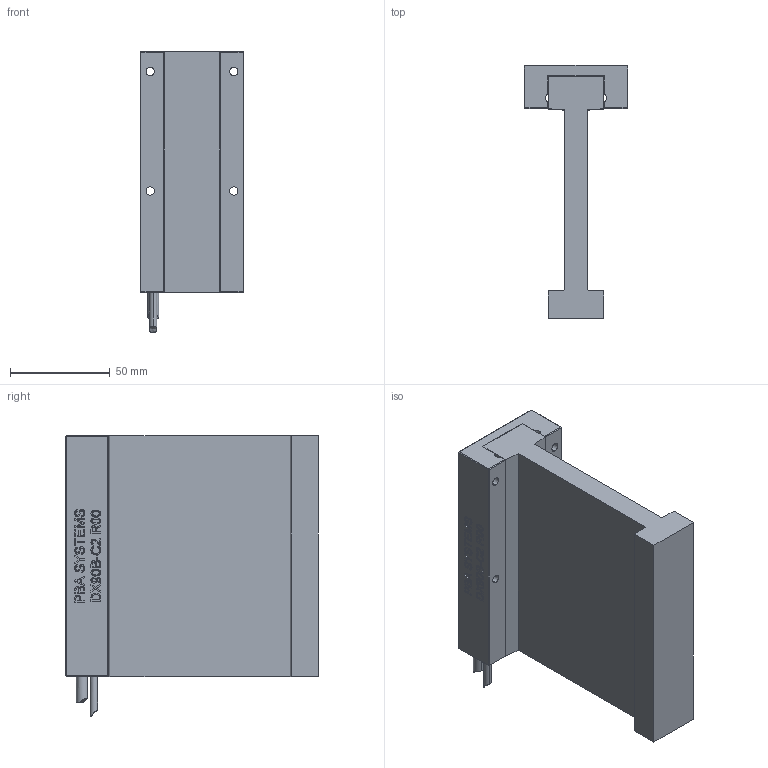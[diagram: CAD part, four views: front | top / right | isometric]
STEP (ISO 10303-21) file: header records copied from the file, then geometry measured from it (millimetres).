
FILE_DESCRIPTION (( 'STEP AP214' ), '1' );
FILE_NAME ('DX90B-C2-000.STEP', '2016-05-09T09:39:10', ( '' ), ( '' ), 'SwSTEP 2.0', 'SolidWorks 2015', '' );
FILE_SCHEMA (( 'AUTOMOTIVE_DESIGN' ));
Length unit declared in the file: millimetre
Products named in the file (5): CBL_MTR_HALL_SS_5C_SA (#2935-1); CBL_MTR_PWR_SS_7C2C_SA (#2936-1); DX90B-CX-002_C2; DX90B-C2-001_CUSTOMER ; DX90B-C2-000
Assembly tree (4 placements, depth 2):
  DX90B-C2-000
    DX90B-C2-001_CUSTOMER 
    DX90B-CX-002_C2
    CBL_MTR_PWR_SS_7C2C_SA (#2936-1)
    CBL_MTR_HALL_SS_5C_SA (#2935-1)
Bounding box: 52 x 127 x 141 mm (x, y, z)
Volume: 308275.4 mm3; surface area: 69057.8 mm2
Topology: 4 solids, 4 shells, 700 faces, 1854 edges, 1228 vertices
Faces by surface type: plane 371, bspline 310, cylinder 19
Entity records: 38611 total; most frequent: CARTESIAN_POINT 23003, ORIENTED_EDGE 3708, DIRECTION 2063, EDGE_CURVE 1854, VERTEX_POINT 1228, VECTOR 1199, LINE 1199, EDGE_LOOP 774
